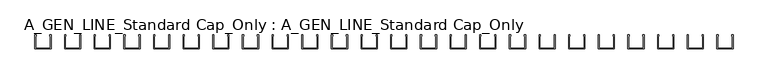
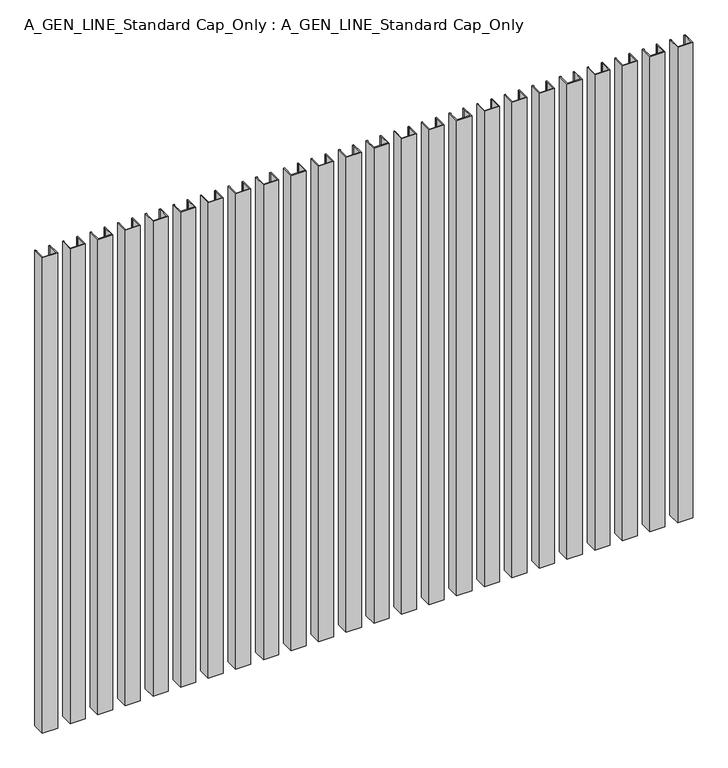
"""IFC4 building model written with IfcOpenShell, lengths in millimetres: proxy geometry, A_GEN_LINE_Standard Cap_Only : A_GEN_LINE_Standard Cap_Only."""

from ifc_helpers import new_model, si_unit, origin, origin_with_axes, place, context, project, spatial, polyline, outline, extrude, source, transform, mapped, element, save


def a_gen_line_standard_cap_only_a_gen_line_standard_cap_only_ef96d668(model_context):
    return source(origin(), model_context, "Body", "SweptSolid", [
        extrude(outline(polyline([(1264.5964579, -32.2007192), (1264.5964579, -6.1), (1266.7454648, -6.1), (1266.7454648, -8.3419727), (1265.9964579, -8.5826662), (1265.9964579, -30.8007192), (1293.1964579, -30.8007192), (1293.1964579, -8.5826662), (1292.4474509, -8.3419727), (1292.4474509, -6.1), (1294.5964579, -6.1), (1294.5964579, -32.2007192), (1264.5964579, -32.2007192)])), origin_with_axes(), (0.0, 0.0, 1.0), 1000.0),
        extrude(outline(polyline([(1209.5959585, -32.2007192), (1209.5959585, -6.1), (1211.7449654, -6.1), (1211.7449654, -8.3419727), (1210.9959585, -8.5826662), (1210.9959585, -30.8007192), (1238.1959585, -30.8007192), (1238.1959585, -8.5826662), (1237.4469515, -8.3419727), (1237.4469515, -6.1), (1239.5959585, -6.1), (1239.5959585, -32.2007192), (1209.5959585, -32.2007192)])), origin_with_axes(), (0.0, 0.0, 1.0), 1000.0),
        extrude(outline(polyline([(1154.5954591, -32.2007192), (1154.5954591, -6.1), (1156.744466, -6.1), (1156.744466, -8.3419727), (1155.9954591, -8.5826662), (1155.9954591, -30.8007192), (1183.1954591, -30.8007192), (1183.1954591, -8.5826662), (1182.4464521, -8.3419727), (1182.4464521, -6.1), (1184.5954591, -6.1), (1184.5954591, -32.2007192), (1154.5954591, -32.2007192)])), origin_with_axes(), (0.0, 0.0, 1.0), 1000.0),
        extrude(outline(polyline([(1099.5949597, -32.2007192), (1099.5949597, -6.1), (1101.7439666, -6.1), (1101.7439666, -8.3419727), (1100.9949597, -8.5826662), (1100.9949597, -30.8007192), (1128.1949597, -30.8007192), (1128.1949597, -8.5826662), (1127.4459527, -8.3419727), (1127.4459527, -6.1), (1129.5949597, -6.1), (1129.5949597, -32.2007192), (1099.5949597, -32.2007192)])), origin_with_axes(), (0.0, 0.0, 1.0), 1000.0),
        extrude(outline(polyline([(1044.5944603, -32.2007192), (1044.5944603, -6.1), (1046.7434673, -6.1), (1046.7434673, -8.3419727), (1045.9944603, -8.5826662), (1045.9944603, -30.8007192), (1073.1944603, -30.8007192), (1073.1944603, -8.5826662), (1072.4454533, -8.3419727), (1072.4454533, -6.1), (1074.5944603, -6.1), (1074.5944603, -32.2007192), (1044.5944603, -32.2007192)])), origin_with_axes(), (0.0, 0.0, 1.0), 1000.0),
        extrude(outline(polyline([(989.5939609, -32.2007192), (989.5939609, -6.1), (991.7429679, -6.1), (991.7429679, -8.3419727), (990.9939609, -8.5826662), (990.9939609, -30.8007192), (1018.1939609, -30.8007192), (1018.1939609, -8.5826662), (1017.4449539, -8.3419727), (1017.4449539, -6.1), (1019.5939609, -6.1), (1019.5939609, -32.2007192), (989.5939609, -32.2007192)])), origin_with_axes(), (0.0, 0.0, 1.0), 1000.0),
        extrude(outline(polyline([(934.5934615, -32.2007192), (934.5934615, -6.1), (936.7424685, -6.1), (936.7424685, -8.3419727), (935.9934615, -8.5826662), (935.9934615, -30.8007192), (963.1934615, -30.8007192), (963.1934615, -8.5826662), (962.4444546, -8.3419727), (962.4444546, -6.1), (964.5934615, -6.1), (964.5934615, -32.2007192), (934.5934615, -32.2007192)])), origin_with_axes(), (0.0, 0.0, 1.0), 1000.0),
        extrude(outline(polyline([(879.5929621, -32.2007192), (879.5929621, -6.1), (881.7419691, -6.1), (881.7419691, -8.3419727), (880.9929621, -8.5826662), (880.9929621, -30.8007192), (908.1929621, -30.8007192), (908.1929621, -8.5826662), (907.4439552, -8.3419727), (907.4439552, -6.1), (909.5929621, -6.1), (909.5929621, -32.2007192), (879.5929621, -32.2007192)])), origin_with_axes(), (0.0, 0.0, 1.0), 1000.0),
        extrude(outline(polyline([(824.5924627, -32.2007192), (824.5924627, -6.1), (826.7414697, -6.1), (826.7414697, -8.3419727), (825.9924627, -8.5826662), (825.9924627, -30.8007192), (853.1924627, -30.8007192), (853.1924627, -8.5826662), (852.4434558, -8.3419727), (852.4434558, -6.1), (854.5924627, -6.1), (854.5924627, -32.2007192), (824.5924627, -32.2007192)])), origin_with_axes(), (0.0, 0.0, 1.0), 1000.0),
        extrude(outline(polyline([(769.5919633, -32.2007192), (769.5919633, -6.1), (771.7409703, -6.1), (771.7409703, -8.3419727), (770.9919633, -8.5826662), (770.9919633, -30.8007192), (798.1919633, -30.8007192), (798.1919633, -8.5826662), (797.4429564, -8.3419727), (797.4429564, -6.1), (799.5919633, -6.1), (799.5919633, -32.2007192), (769.5919633, -32.2007192)])), origin_with_axes(), (0.0, 0.0, 1.0), 1000.0),
        extrude(outline(polyline([(714.5914639, -32.2007192), (714.5914639, -6.1), (716.7404709, -6.1), (716.7404709, -8.3419727), (715.9914639, -8.5826662), (715.9914639, -30.8007192), (743.1914639, -30.8007192), (743.1914639, -8.5826662), (742.442457, -8.3419727), (742.442457, -6.1), (744.5914639, -6.1), (744.5914639, -32.2007192), (714.5914639, -32.2007192)])), origin_with_axes(), (0.0, 0.0, 1.0), 1000.0),
        extrude(outline(polyline([(659.5909646, -32.2007192), (659.5909646, -6.1), (661.7399715, -6.1), (661.7399715, -8.3419727), (660.9909646, -8.5826662), (660.9909646, -30.8007192), (688.1909646, -30.8007192), (688.1909646, -8.5826662), (687.4419576, -8.3419727), (687.4419576, -6.1), (689.5909646, -6.1), (689.5909646, -32.2007192), (659.5909646, -32.2007192)])), origin_with_axes(), (0.0, 0.0, 1.0), 1000.0),
        extrude(outline(polyline([(604.5904652, -32.2007192), (604.5904652, -6.1), (606.7394721, -6.1), (606.7394721, -8.3419727), (605.9904652, -8.5826662), (605.9904652, -30.8007192), (633.1904652, -30.8007192), (633.1904652, -8.5826662), (632.4414582, -8.3419727), (632.4414582, -6.1), (634.5904652, -6.1), (634.5904652, -32.2007192), (604.5904652, -32.2007192)])), origin_with_axes(), (0.0, 0.0, 1.0), 1000.0),
        extrude(outline(polyline([(549.5899658, -32.2007192), (549.5899658, -6.1), (551.7389727, -6.1), (551.7389727, -8.3419727), (550.9899658, -8.5826662), (550.9899658, -30.8007192), (578.1899658, -30.8007192), (578.1899658, -8.5826662), (577.4409588, -8.3419727), (577.4409588, -6.1), (579.5899658, -6.1), (579.5899658, -32.2007192), (549.5899658, -32.2007192)])), origin_with_axes(), (0.0, 0.0, 1.0), 1000.0),
        extrude(outline(polyline([(494.5894664, -32.2007192), (494.5894664, -6.1), (496.7384733, -6.1), (496.7384733, -8.3419727), (495.9894664, -8.5826662), (495.9894664, -30.8007192), (523.1894664, -30.8007192), (523.1894664, -8.5826662), (522.4404594, -8.3419727), (522.4404594, -6.1), (524.5894664, -6.1), (524.5894664, -32.2007192), (494.5894664, -32.2007192)])), origin_with_axes(), (0.0, 0.0, 1.0), 1000.0),
        extrude(outline(polyline([(439.588967, -32.2007192), (439.588967, -6.1), (441.737974, -6.1), (441.737974, -8.3419727), (440.988967, -8.5826662), (440.988967, -30.8007192), (468.188967, -30.8007192), (468.188967, -8.5826662), (467.43996, -8.3419727), (467.43996, -6.1), (469.588967, -6.1), (469.588967, -32.2007192), (439.588967, -32.2007192)])), origin_with_axes(), (0.0, 0.0, 1.0), 1000.0),
        extrude(outline(polyline([(384.5884676, -32.2007192), (384.5884676, -6.1), (386.7374746, -6.1), (386.7374746, -8.3419727), (385.9884676, -8.5826662), (385.9884676, -30.8007192), (413.1884676, -30.8007192), (413.1884676, -8.5826662), (412.4394606, -8.3419727), (412.4394606, -6.1), (414.5884676, -6.1), (414.5884676, -32.2007192), (384.5884676, -32.2007192)])), origin_with_axes(), (0.0, 0.0, 1.0), 1000.0),
        extrude(outline(polyline([(329.5879682, -32.2007192), (329.5879682, -6.1), (331.7369752, -6.1), (331.7369752, -8.3419727), (330.9879682, -8.5826662), (330.9879682, -30.8007192), (358.1879682, -30.8007192), (358.1879682, -8.5826662), (357.4389613, -8.3419727), (357.4389613, -6.1), (359.5879682, -6.1), (359.5879682, -32.2007192), (329.5879682, -32.2007192)])), origin_with_axes(), (0.0, 0.0, 1.0), 1000.0),
        extrude(outline(polyline([(274.5874688, -32.2007192), (274.5874688, -6.1), (276.7364758, -6.1), (276.7364758, -8.3419727), (275.9874688, -8.5826662), (275.9874688, -30.8007192), (303.1874688, -30.8007192), (303.1874688, -8.5826662), (302.4384619, -8.3419727), (302.4384619, -6.1), (304.5874688, -6.1), (304.5874688, -32.2007192), (274.5874688, -32.2007192)])), origin_with_axes(), (0.0, 0.0, 1.0), 1000.0),
        extrude(outline(polyline([(219.5869694, -32.2007192), (219.5869694, -6.1), (221.7359764, -6.1), (221.7359764, -8.3419727), (220.9869694, -8.5826662), (220.9869694, -30.8007192), (248.1869694, -30.8007192), (248.1869694, -8.5826662), (247.4379625, -8.3419727), (247.4379625, -6.1), (249.5869694, -6.1), (249.5869694, -32.2007192), (219.5869694, -32.2007192)])), origin_with_axes(), (0.0, 0.0, 1.0), 1000.0),
        extrude(outline(polyline([(164.58647, -32.2007192), (164.58647, -6.1), (166.735477, -6.1), (166.735477, -8.3419727), (165.98647, -8.5826662), (165.98647, -30.8007192), (193.18647, -30.8007192), (193.18647, -8.5826662), (192.4374631, -8.3419727), (192.4374631, -6.1), (194.58647, -6.1), (194.58647, -32.2007192), (164.58647, -32.2007192)])), origin_with_axes(), (0.0, 0.0, 1.0), 1000.0),
        extrude(outline(polyline([(109.5859707, -32.2007192), (109.5859707, -6.1), (111.7349776, -6.1), (111.7349776, -8.3419727), (110.9859707, -8.5826662), (110.9859707, -30.8007192), (138.1859707, -30.8007192), (138.1859707, -8.5826662), (137.4369637, -8.3419727), (137.4369637, -6.1), (139.5859707, -6.1), (139.5859707, -32.2007192), (109.5859707, -32.2007192)])), origin_with_axes(), (0.0, 0.0, 1.0), 1000.0),
        extrude(outline(polyline([(54.5854713, -32.2007192), (54.5854713, -6.1), (56.7344782, -6.1), (56.7344782, -8.3419727), (55.9854713, -8.5826662), (55.9854713, -30.8007192), (83.1854713, -30.8007192), (83.1854713, -8.5826662), (82.4364643, -8.3419727), (82.4364643, -6.1), (84.5854713, -6.1), (84.5854713, -32.2007192), (54.5854713, -32.2007192)])), origin_with_axes(), (0.0, 0.0, 1.0), 1000.0),
        extrude(outline(polyline([(-0.4150281, -32.2007192), (-0.4150281, -6.1), (1.7339788, -6.1), (1.7339788, -8.3419727), (0.9849719, -8.5826662), (0.9849719, -30.8007192), (28.1849719, -30.8007192), (28.1849719, -8.5826662), (27.4359649, -8.3419727), (27.4359649, -6.1), (29.5849719, -6.1), (29.5849719, -32.2007192), (-0.4150281, -32.2007192)])), origin_with_axes(), (0.0, 0.0, 1.0), 1000.0),
    ])


if __name__ == "__main__":
    model = new_model("IFC4")
    model_context = context("Model", 3, world=origin())
    ifc_project = project(units=[si_unit("LENGTHUNIT", "METRE", prefix="MILLI")], contexts=[model_context])
    site = spatial("IfcSite", under=ifc_project)
    building = spatial("IfcBuilding", under=site)
    placement = place(None, origin())
    a_gen_line_standard_cap_only_a_gen_line_standard_cap_only_shape = a_gen_line_standard_cap_only_a_gen_line_standard_cap_only_ef96d668(model_context)
    element("IfcBuildingElementProxy", 1, Name="A_GEN_LINE_Standard Cap_Only : A_GEN_LINE_Standard Cap_Only", ObjectType="A_GEN_LINE_Standard Cap_Only : A_GEN_LINE_Standard Cap_Only", at=placement, inside=building, context=model_context, shape_type="MappedRepresentation", body=[
        mapped(a_gen_line_standard_cap_only_a_gen_line_standard_cap_only_shape, transform((0.0, 0.0, 0.0), x_axis=(1.0, 0.0, 0.0), y_axis=(0.0, 1.0, 0.0), z_axis=(0.0, 0.0, 1.0))),
    ])
    save(model, "model.ifc")
